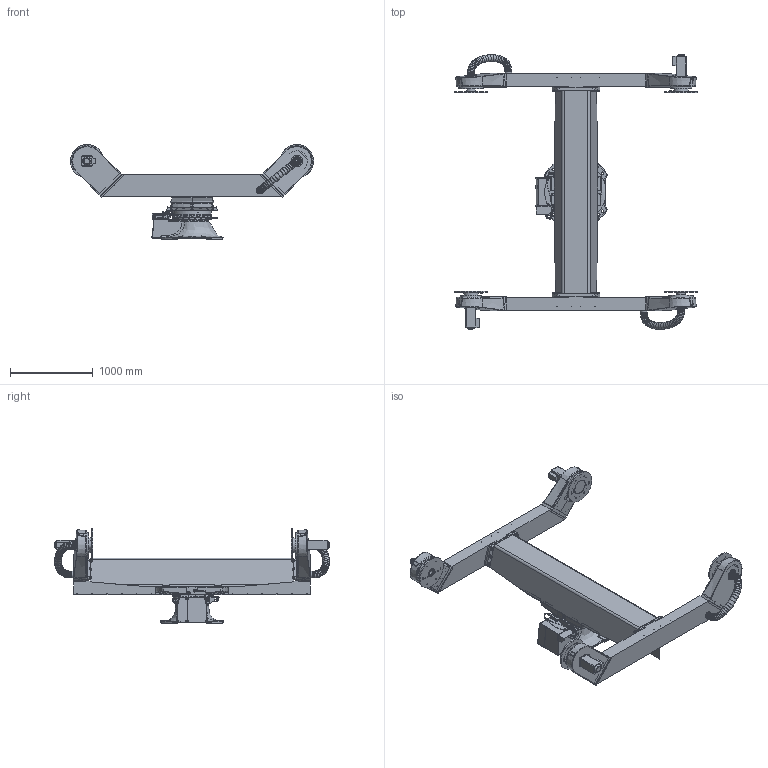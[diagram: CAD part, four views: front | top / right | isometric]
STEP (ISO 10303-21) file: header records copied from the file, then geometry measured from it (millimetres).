
FILE_DESCRIPTION(/* description */ (''),/* implementation_level */ '2;1');
FILE_NAME(/* name */ 'KP3-V2H500 R1000 L2400-2.stp',/* time_stamp */ '2021-04-21T07:18:39+02:00',/* author */ (''),/* organization */ (''),/* preprocessor_version */ 'ST-DEVELOPER v16.7',/* originating_system */ 'SIEMENS PLM Software NX 12.0',/* authorisation */ '');
FILE_SCHEMA (('AUTOMOTIVE_DESIGN { 1 0 10303 214 3 1 1 1 }'));
Products named in the file (1): WOER86A8582Bwdp3
Bounding box: 2944.09 x 3328.28 x 1150.08 mm (x, y, z)
Volume: 709985542.9 mm3; surface area: 19537192.7 mm2
Topology: 21 solids, 44 shells, 3883 faces, 9585 edges, 5962 vertices
Faces by surface type: plane 1338, cylinder 979, bspline 750, torus 421, cone 252, extrusion 107, sphere 36
Full cylindrical faces by diameter (mm): 3.054 x8, 3.3 x8, 4 x8, 4.072 x2, 4.3 x8, 5 x3, 5.3 x4, 5.99 x2, 6 x10, 6.38 x1, 6.4 x8, 6.8 x41, 7 x28, 8 x2, 8.2 x9, 8.4 x6, 8.5 x2, 8.64 x1, 9 x2, 10 x13, 10.3 x32, 10.683 x1, 11 x2, 11.99 x4, 12 x28, 13 x8, 13.5 x2, 14 x32, 16 x10, 17 x12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
Entity records: 157840 total; most frequent: CARTESIAN_POINT 54505, ORIENTED_EDGE 16614, DIRECTION 15837, EDGE_CURVE 8307, AXIS2_PLACEMENT_3D 6521, VERTEX_POINT 5700, EDGE_LOOP 5302, ADVANCED_FACE 3883
